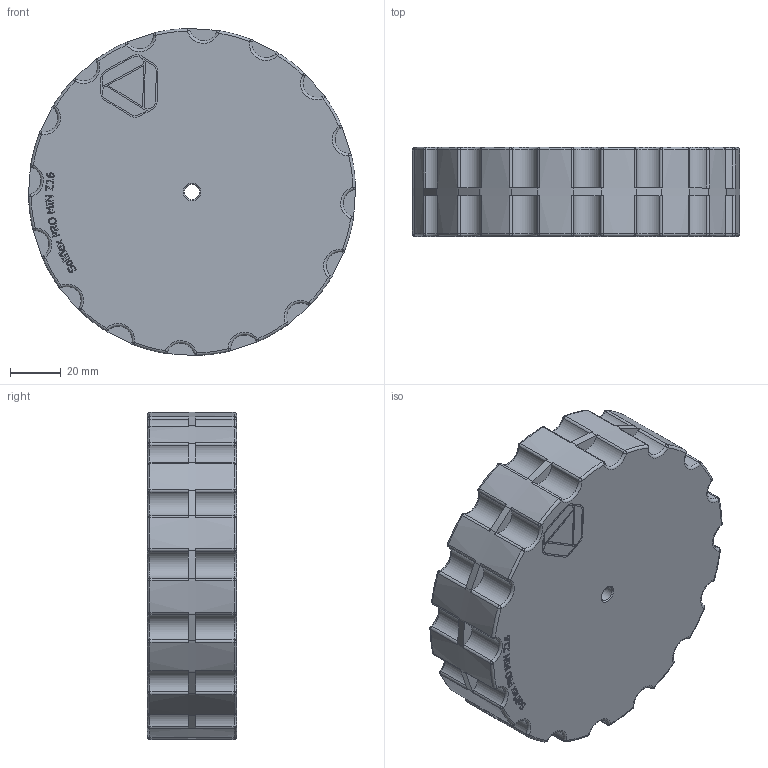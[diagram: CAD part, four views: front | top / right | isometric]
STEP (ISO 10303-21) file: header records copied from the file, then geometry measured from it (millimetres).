
FILE_DESCRIPTION(/* description */ ('Unknown'),/* implementation_level */ '2;1');
FILE_NAME(/* name */ 'GEN0001-D253 MIN Z16 D128.5 PB06 BLUE',/* time_stamp */ '2020-03-03T16:59:10+01:00',/* author */ ('Unknown'),/* organization */ ('Unknown'),/* preprocessor_version */ 'ST-DEVELOPER v16.7',/* originating_system */ 'DEX',/* authorisation */ $);
FILE_SCHEMA (('AUTOMOTIVE_DESIGN {1 0 10303 214 3 1 1}'));
Length unit declared in the file: millimetre
Products named in the file (1): GEN0001-D253 MIN Z16 D128.5 PB06 BLUE
Bounding box: 128.49 x 35 x 128.49 mm (x, y, z)
Volume: 432917.7 mm3; surface area: 42232.7 mm2
Topology: 1 solids, 1 shells, 498 faces, 1271 edges, 740 vertices
Faces by surface type: plane 216, cylinder 127, torus 66, sphere 64, bspline 25
Full cylindrical faces by diameter (mm): 6 x1
Entity records: 15816 total; most frequent: CARTESIAN_POINT 3940, DIRECTION 2610, ORIENTED_EDGE 2400, EDGE_CURVE 1200, AXIS2_PLACEMENT_3D 986, VERTEX_POINT 740, LINE 638, VECTOR 638
